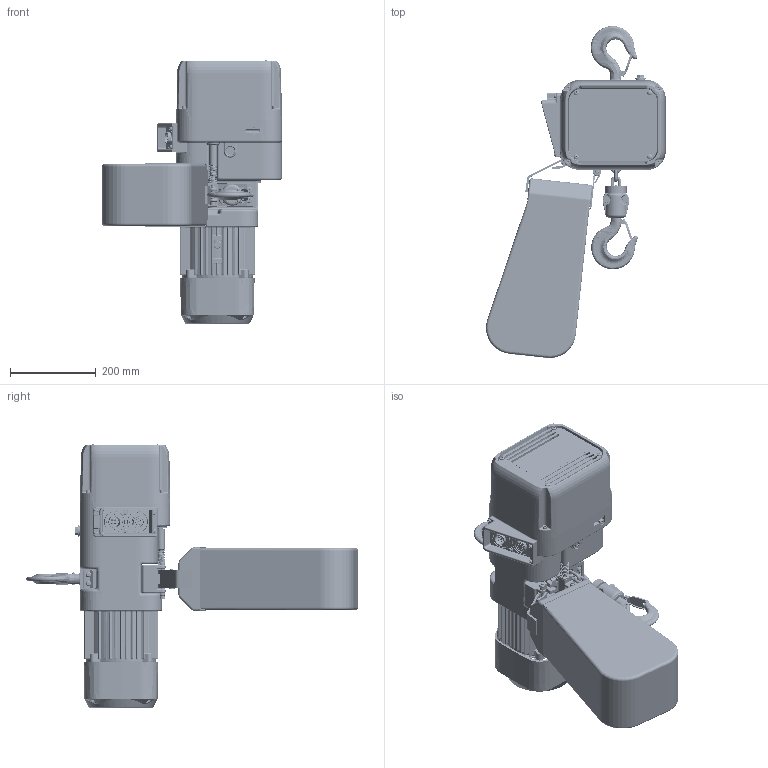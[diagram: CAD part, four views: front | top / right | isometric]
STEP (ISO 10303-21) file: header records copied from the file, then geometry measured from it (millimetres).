
FILE_DESCRIPTION (( 'STEP AP214' ), '1' );
FILE_NAME ('NER2010LD.STEP', '2026-08-03T20:26:45', ( '' ), ( '' ), 'SwSTEP 2.0', 'SolidWorks 2026', '' );
FILE_SCHEMA (( 'AUTOMOTIVE_DESIGN' ));
Length unit declared in the file: millimetre
Products named in the file (52): single coil rectangular section spring washer_bsi_9012711; ER2CS9511; 9091234_B18.3.1M - 5 x 0.8 x 45 Hex SHCS -- 22CHX; pan cross head_am_B18.6.7M - M6 x 1.0 x 16 Type I Cross Recessed PHMS --16N; external tooth lock washer_am_PreviewCfg; J1AP24001212; ER2CS2523; ER2DI9104_ER2DI9104; ER2CS9121; MS561010; NER2010LD; BK2D2; ER2DS5405; ER2BHM10I9A5; ER2DS9103; ER2DS9001; ER2CI2564; ES127005S; socket head cap screw_am_9091286; ER414001_B18.3.1M - 8 x 1.25 x 40 Hex SHCS -- 28CHX; LCER2010NP_8; E3S111003; ER2DS2015; 9091254_9091254; ER2DS1001; J1BY9-0803022_B18.2.3.1M - Hex cap screw, M8 x 1.25 x 30 --30C; Spring Lock Washer for M4; socket head cap screw_am_9091274; ER2CS9186; ES857005S; ER2DI4511; ER2DS9338; ER2CS9107_ER2CS9107; ER2DS1002; ER1BS9135; J1NA001-20080_B18.2.4.1M - Hex nut, Style 1,  M8 x 1.25 --D-C; ER2DS9015; ER2DJ2104; ER2DS9331; E3S112003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
Assembly tree (96 placements, depth 4):
  NER2010LD
    ER2DS9101
    ER2DS9103
    ER2DS1011
      ER2DS2015
        ER2DS9015  x2
        J1BY9-0803022_B18.2.3.1M - Hex cap screw, M8 x 1.25 x 30 --30C  x2
        J1WS011-20080_Rectangular section spring washer BS 4464 - 16 (Type B)  x2
        J1NA001-20080_B18.2.4.1M - Hex nut, Style 1,  M8 x 1.25 --D-C  x2
      ER2DS9011
      ER2DS1002
    ER2DS9331
    ER2DS9337
    ER2DS9338
    ER2CS9357
    ER2CS9121  x2
    ER2CS9186
    LCER2010NP_8
      LCER2010NP  x8
    ER1DS9053
    single coil rectangular section spring washer_bsi_9012711  x4
    socket head cap screw_am_9091274  x4
    ES127005S
    ER1BS9135
    E3S112003  x2
    E3S111003  x2
    ER2DI4511
      ER2CS9511
      MS561010  x6
      ER2CS2523
      ER2CI2564
      ES558003  x8
    ER2BHM10I9A5
    ER2DJ2104
      ER2DI9104_ER2DI9104
      ER2DI9185_ER2DI9185
      J1AP24001212  x4
        Spring Lock Washer for M4
        pan cross head_am_B18.6.7M - M6 x 1.0 x 16 Type I Cross Recessed PHMS --16N
    external tooth lock washer_am_PreviewCfg  x4
    9091254_9091254  x4
    ER2DL9105
    ER2CS9107_ER2CS9107
    9091234_B18.3.1M - 5 x 0.8 x 45 Hex SHCS -- 22CHX  x4
    BK2D2
      ER2DS5405
      socket head cap screw_am_9091286
      ES857005S
      ER414001_B18.3.1M - 8 x 1.25 x 40 Hex SHCS -- 28CHX
      ES855003
    ER2DS1001
      ER2DS9001
      ER2DS1002
Bounding box: 420.66 x 776.11 x 615.07 mm (x, y, z)
Volume: 18588378.5 mm3; surface area: 2074268.8 mm2
Topology: 102 solids, 107 shells, 5950 faces, 15674 edges, 9930 vertices
Faces by surface type: cylinder 2275, plane 1982, torus 722, bspline 468, cone 331, sphere 172
Entity records: 191466 total; most frequent: CARTESIAN_POINT 69266, DIRECTION 24812, ORIENTED_EDGE 24744, EDGE_CURVE 12372, AXIS2_PLACEMENT_3D 9432, VERTEX_POINT 7968, VECTOR 5948, LINE 5948
